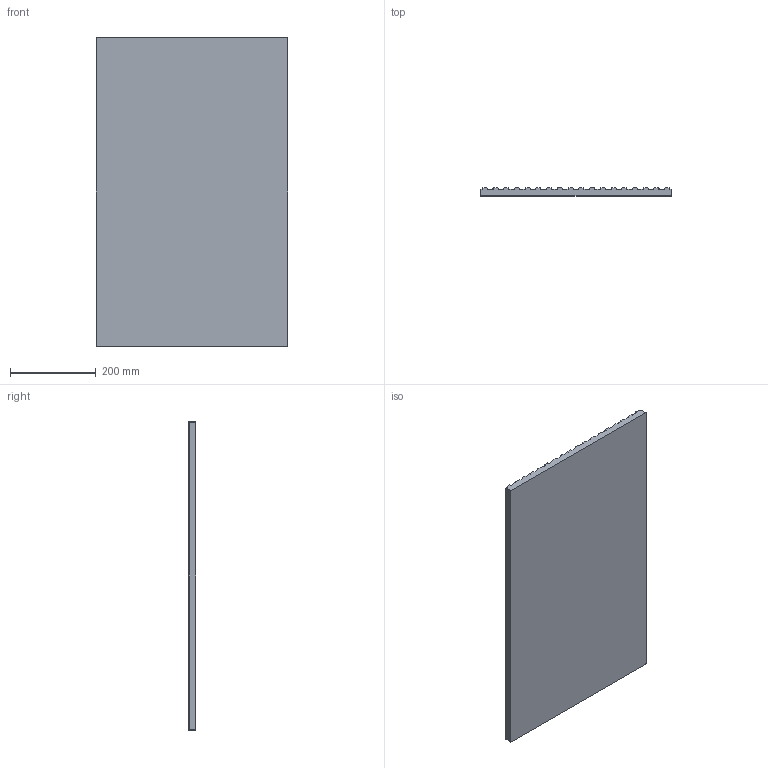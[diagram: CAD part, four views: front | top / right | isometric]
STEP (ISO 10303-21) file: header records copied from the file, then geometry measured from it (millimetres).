
FILE_DESCRIPTION(/* description */ (''),/* implementation_level */ '2;1');
FILE_NAME(/* name */ 'B101.stp',/* time_stamp */ '2024-06-11T15:39:35+02:00',/* author */ ('bzsolt'),/* organization */ (''),/* preprocessor_version */ 'ST-DEVELOPER v20',/* originating_system */ 'Autodesk Inventor 2025',/* authorisation */ '');
FILE_SCHEMA (('AUTOMOTIVE_DESIGN { 1 0 10303 214 3 1 1 }'));
Length unit declared in the file: millimetre
Products named in the file (1): B101
Bounding box: 447 x 18 x 718 mm (x, y, z)
Volume: 5273172 mm3; surface area: 717464.5 mm2
Topology: 1 solids, 1 shells, 450 faces, 976 edges, 528 vertices
Faces by surface type: cylinder 224, plane 78, torus 76, sphere 72
Entity records: 12063 total; most frequent: DIRECTION 2402, CARTESIAN_POINT 1955, ORIENTED_EDGE 1952, EDGE_CURVE 976, AXIS2_PLACEMENT_3D 975, VERTEX_POINT 528, CIRCLE 524, LINE 452
